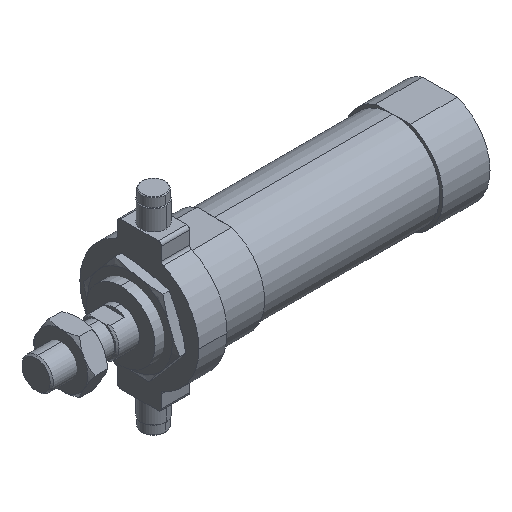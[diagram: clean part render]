
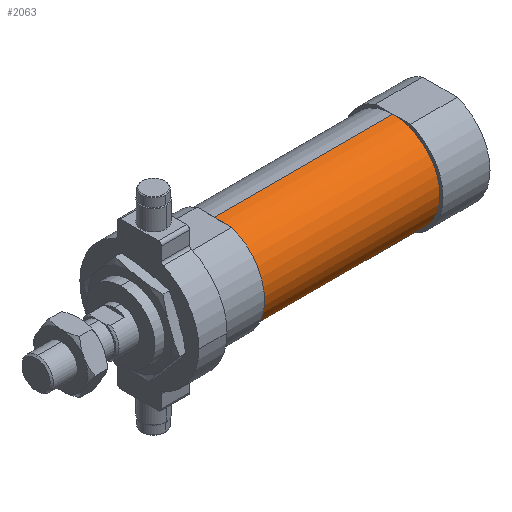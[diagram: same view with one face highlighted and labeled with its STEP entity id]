
A CAD part, isometric view. The second image highlights one B-rep face of the part: STEP entity #2063.
In plain terms, the highlighted cylindrical face has radius 15 mm (diameter 30 mm), a partial arc.
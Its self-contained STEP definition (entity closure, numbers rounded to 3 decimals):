
#32 = ORIENTED_EDGE ( 'NONE', *, *, #4052, .T. ) ;
#98 = AXIS2_PLACEMENT_3D ( 'NONE', #2529, #1540, #3867 ) ;
#139 = CARTESIAN_POINT ( 'NONE',  ( -6.469, 0., 0. ) ) ;
#367 = LINE ( 'NONE', #4190, #3890 ) ;
#388 = ORIENTED_EDGE ( 'NONE', *, *, #926, .T. ) ;
#520 = DIRECTION ( 'NONE',  ( -1., 0., 0. ) ) ;
#775 = VECTOR ( 'NONE', #520, 1000. ) ;
#824 = ORIENTED_EDGE ( 'NONE', *, *, #2755, .F. ) ;
#926 = EDGE_CURVE ( 'NONE', #2566, #3904, #3944, .T. ) ;
#1074 = AXIS2_PLACEMENT_3D ( 'NONE', #139, #4206, #1516 ) ;
#1192 = CARTESIAN_POINT ( 'NONE',  ( 57., 0., 0. ) ) ;
#1424 = EDGE_CURVE ( 'NONE', #2566, #4363, #367, .T. ) ;
#1496 = DIRECTION ( 'NONE',  ( -1., 0., 0. ) ) ;
#1516 = DIRECTION ( 'NONE',  ( 0., 0., 1. ) ) ;
#1540 = DIRECTION ( 'NONE',  ( -1., 0., 0. ) ) ;
#1654 = EDGE_LOOP ( 'NONE', ( #3529, #388, #32, #824 ) ) ;
#2063 = ADVANCED_FACE ( 'NONE', ( #3988 ), #3306, .T. ) ;
#2177 = DIRECTION ( 'NONE',  ( 0., 0., 1. ) ) ;
#2518 = VERTEX_POINT ( 'NONE', #3402 ) ;
#2529 = CARTESIAN_POINT ( 'NONE',  ( 114., 0., 0. ) ) ;
#2566 = VERTEX_POINT ( 'NONE', #3769 ) ;
#2567 = CARTESIAN_POINT ( 'NONE',  ( -6.469, 0., 15. ) ) ;
#2583 = CIRCLE ( 'NONE', #2667, 15. ) ;
#2667 = AXIS2_PLACEMENT_3D ( 'NONE', #1192, #4242, #2177 ) ;
#2678 = CARTESIAN_POINT ( 'NONE',  ( 57., 0., -15. ) ) ;
#2755 = EDGE_CURVE ( 'NONE', #4363, #2518, #2583, .T. ) ;
#3228 = LINE ( 'NONE', #2567, #775 ) ;
#3306 = CYLINDRICAL_SURFACE ( 'NONE', #1074, 15. ) ;
#3402 = CARTESIAN_POINT ( 'NONE',  ( 57., 0., 15. ) ) ;
#3529 = ORIENTED_EDGE ( 'NONE', *, *, #1424, .F. ) ;
#3769 = CARTESIAN_POINT ( 'NONE',  ( 114., 0., -15. ) ) ;
#3867 = DIRECTION ( 'NONE',  ( 0., 0., 1. ) ) ;
#3890 = VECTOR ( 'NONE', #1496, 1000. ) ;
#3904 = VERTEX_POINT ( 'NONE', #3910 ) ;
#3910 = CARTESIAN_POINT ( 'NONE',  ( 114., 0., 15. ) ) ;
#3944 = CIRCLE ( 'NONE', #98, 15. ) ;
#3988 = FACE_OUTER_BOUND ( 'NONE', #1654, .T. ) ;
#4052 = EDGE_CURVE ( 'NONE', #3904, #2518, #3228, .T. ) ;
#4190 = CARTESIAN_POINT ( 'NONE',  ( -6.469, 0., -15. ) ) ;
#4206 = DIRECTION ( 'NONE',  ( -1., 0., 0. ) ) ;
#4242 = DIRECTION ( 'NONE',  ( -1., 0., 0. ) ) ;
#4363 = VERTEX_POINT ( 'NONE', #2678 ) ;
